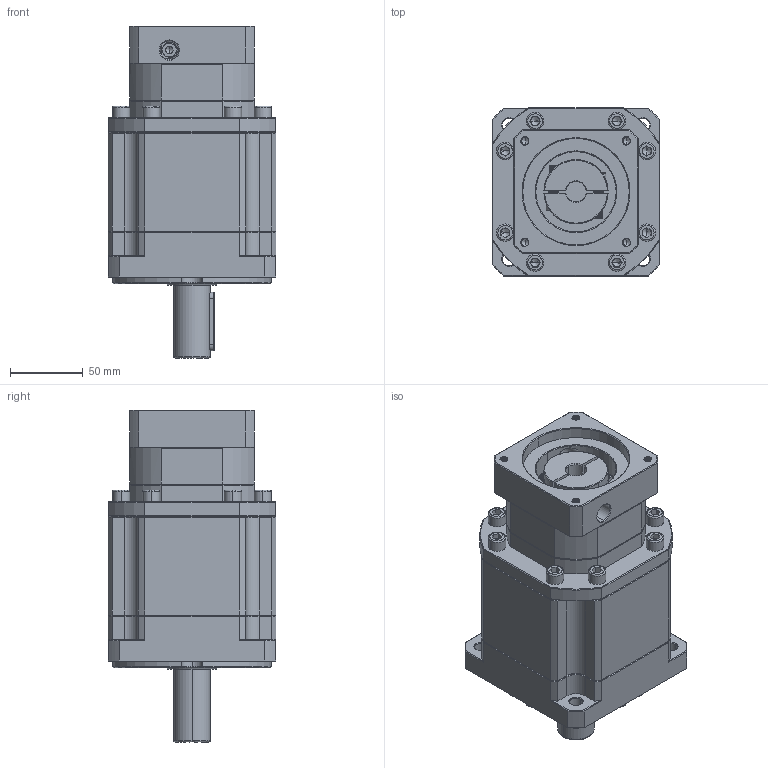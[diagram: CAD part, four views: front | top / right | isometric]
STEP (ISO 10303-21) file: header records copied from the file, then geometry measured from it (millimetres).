
FILE_DESCRIPTION (( 'STEP AP214' ), '1' );
FILE_NAME ('ZB115A-D25-L3-P2-14-73-69.6X69.6-M6.step', '2023-08-26T10:00:20', ( '' ), ( '' ), 'SwSTEP 2.0', 'SolidWorks 2016', '' );
FILE_SCHEMA (( 'AUTOMOTIVE_DESIGN' ));
Length unit declared in the file: millimetre
Products named in the file (1): ZB115A-D25-L3-P2-14-73-69.6X69.6-M6
Bounding box: 115 x 115 x 227.5 mm (x, y, z)
Volume: 1688871.8 mm3; surface area: 145224.6 mm2
Topology: 5 solids, 6 shells, 2412 faces, 6329 edges, 4019 vertices
Faces by surface type: plane 1190, bspline 427, cylinder 425, cone 355, torus 15
Entity records: 128257 total; most frequent: CARTESIAN_POINT 45946, ORIENTED_EDGE 12582, DIRECTION 9955, EDGE_CURVE 6291, VECTOR 4039, LINE 4039, VERTEX_POINT 4019, AXIS2_PLACEMENT_3D 2958
